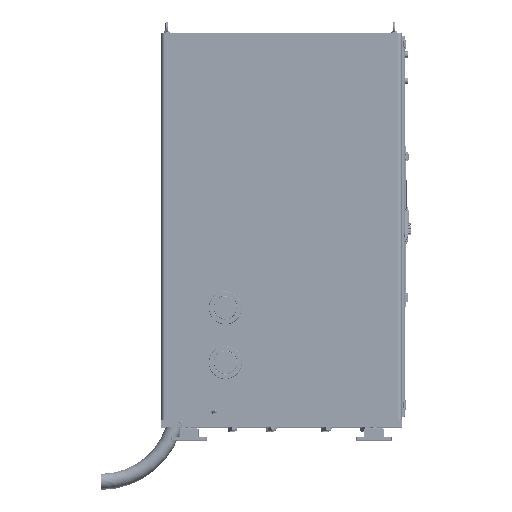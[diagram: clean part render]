
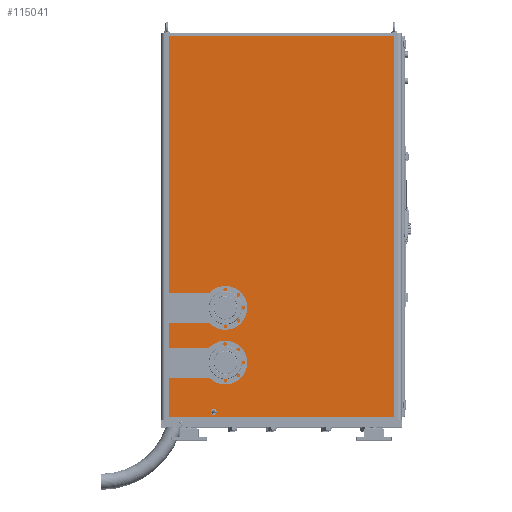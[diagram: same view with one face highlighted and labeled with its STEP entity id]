
A CAD part, top view. The second image highlights one B-rep face of the part: STEP entity #115041.
In plain terms, the highlighted planar face has unit normal (0, 0, 1).
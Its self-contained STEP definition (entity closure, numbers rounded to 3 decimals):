
#1533 = VECTOR ( 'NONE', #115704, 1000. ) ;
#4093 = DIRECTION ( 'NONE',  ( 0., 0., -1. ) ) ;
#4802 = DIRECTION ( 'NONE',  ( -1., 0., 0. ) ) ;
#5464 = VERTEX_POINT ( 'NONE', #12586 ) ;
#5616 = VECTOR ( 'NONE', #5823, 1000. ) ;
#5823 = DIRECTION ( 'NONE',  ( 0., 1., 0. ) ) ;
#6528 = CARTESIAN_POINT ( 'NONE',  ( -559.183, -587.365, 1544.379 ) ) ;
#6925 = VECTOR ( 'NONE', #43509, 1000. ) ;
#7446 = CARTESIAN_POINT ( 'NONE',  ( -354.183, -902.365, 1544.379 ) ) ;
#8241 = EDGE_CURVE ( 'NONE', #24575, #127979, #93222, .T. ) ;
#8360 = DIRECTION ( 'NONE',  ( 1., 0., 0. ) ) ;
#8605 = LINE ( 'NONE', #52111, #6925 ) ;
#8803 = CARTESIAN_POINT ( 'NONE',  ( -559.183, -924.365, 1544.379 ) ) ;
#9072 = CARTESIAN_POINT ( 'NONE',  ( -339.183, -902.365, 1544.379 ) ) ;
#9268 = VERTEX_POINT ( 'NONE', #14178 ) ;
#11684 = LINE ( 'NONE', #77283, #60199 ) ;
#12586 = CARTESIAN_POINT ( 'NONE',  ( -284.183, -737.365, 1544.379 ) ) ;
#12788 = CARTESIAN_POINT ( 'NONE',  ( -284.183, -467.365, 1544.379 ) ) ;
#14178 = CARTESIAN_POINT ( 'NONE',  ( -559.183, -587.365, 1544.379 ) ) ;
#14251 = LINE ( 'NONE', #101250, #55896 ) ;
#14430 = ORIENTED_EDGE ( 'NONE', *, *, #72823, .T. ) ;
#14781 = FACE_BOUND ( 'NONE', #64540, .T. ) ;
#15331 = VERTEX_POINT ( 'NONE', #91961 ) ;
#15783 = VECTOR ( 'NONE', #58605, 1000. ) ;
#17243 = ORIENTED_EDGE ( 'NONE', *, *, #140504, .T. ) ;
#18831 = ORIENTED_EDGE ( 'NONE', *, *, #137940, .F. ) ;
#18879 = AXIS2_PLACEMENT_3D ( 'NONE', #104784, #138277, #82686 ) ;
#21155 = EDGE_CURVE ( 'NONE', #64624, #9268, #115776, .T. ) ;
#23611 = EDGE_CURVE ( 'NONE', #69048, #83771, #112239, .T. ) ;
#23902 = CIRCLE ( 'NONE', #51315, 75. ) ;
#24575 = VERTEX_POINT ( 'NONE', #109466 ) ;
#26029 = CARTESIAN_POINT ( 'NONE',  ( -559.183, -317.365, 1544.379 ) ) ;
#26435 = CARTESIAN_POINT ( 'NONE',  ( -559.183, -926.365, 1544.379 ) ) ;
#27429 = VERTEX_POINT ( 'NONE', #47551 ) ;
#30194 = CARTESIAN_POINT ( 'NONE',  ( -559.183, -924.365, 1544.379 ) ) ;
#32853 = ORIENTED_EDGE ( 'NONE', *, *, #119725, .F. ) ;
#32918 = ORIENTED_EDGE ( 'NONE', *, *, #21155, .T. ) ;
#36250 = ORIENTED_EDGE ( 'NONE', *, *, #62387, .F. ) ;
#36330 = CARTESIAN_POINT ( 'NONE',  ( -284.183, -392.365, 1544.379 ) ) ;
#36634 = VECTOR ( 'NONE', #82279, 1000. ) ;
#36799 = DIRECTION ( 'NONE',  ( 0., 0., 1. ) ) ;
#37999 = VECTOR ( 'NONE', #57323, 1000. ) ;
#39450 = CIRCLE ( 'NONE', #18879, 75. ) ;
#39962 = ORIENTED_EDGE ( 'NONE', *, *, #23611, .F. ) ;
#40492 = VERTEX_POINT ( 'NONE', #26435 ) ;
#40841 = CARTESIAN_POINT ( 'NONE',  ( -559.183, -924.365, 1544.379 ) ) ;
#41267 = VECTOR ( 'NONE', #135688, 1000. ) ;
#43509 = DIRECTION ( 'NONE',  ( 1., 0., 0. ) ) ;
#43630 = AXIS2_PLACEMENT_3D ( 'NONE', #125309, #4093, #4802 ) ;
#44209 = EDGE_CURVE ( 'NONE', #27429, #9268, #82126, .T. ) ;
#46078 = CARTESIAN_POINT ( 'NONE',  ( -339.183, -902.365, 1544.379 ) ) ;
#47551 = CARTESIAN_POINT ( 'NONE',  ( -284.183, -587.365, 1544.379 ) ) ;
#47712 = DIRECTION ( 'NONE',  ( 0., 0., 1. ) ) ;
#51042 = EDGE_LOOP ( 'NONE', ( #71817, #36250, #32853, #134241, #14430, #73940, #140480, #17243, #39962, #138118, #18831, #32918 ) ) ;
#51206 = AXIS2_PLACEMENT_3D ( 'NONE', #9072, #128162, #8360 ) ;
#51315 = AXIS2_PLACEMENT_3D ( 'NONE', #36330, #47712, #79834 ) ;
#52111 = CARTESIAN_POINT ( 'NONE',  ( -284.183, -467.365, 1544.379 ) ) ;
#52238 = AXIS2_PLACEMENT_3D ( 'NONE', #46078, #36799, #112403 ) ;
#55301 = CARTESIAN_POINT ( 'NONE',  ( 544.817, 937.635, 1544.379 ) ) ;
#55896 = VECTOR ( 'NONE', #91949, 1000. ) ;
#55918 = CARTESIAN_POINT ( 'NONE',  ( -559.183, -317.365, 1544.379 ) ) ;
#57323 = DIRECTION ( 'NONE',  ( -1., 0., 0. ) ) ;
#58016 = CIRCLE ( 'NONE', #51206, 15. ) ;
#58605 = DIRECTION ( 'NONE',  ( -1., 0., 0. ) ) ;
#58777 = ORIENTED_EDGE ( 'NONE', *, *, #8241, .F. ) ;
#60199 = VECTOR ( 'NONE', #75209, 1000. ) ;
#62387 = EDGE_CURVE ( 'NONE', #5464, #27429, #39450, .T. ) ;
#64540 = EDGE_LOOP ( 'NONE', ( #58777, #82048 ) ) ;
#64624 = VERTEX_POINT ( 'NONE', #105552 ) ;
#66478 = VERTEX_POINT ( 'NONE', #94305 ) ;
#66680 = LINE ( 'NONE', #55301, #5616 ) ;
#68881 = VECTOR ( 'NONE', #115070, 1000. ) ;
#69048 = VERTEX_POINT ( 'NONE', #70744 ) ;
#70744 = CARTESIAN_POINT ( 'NONE',  ( -284.183, -317.365, 1544.379 ) ) ;
#71817 = ORIENTED_EDGE ( 'NONE', *, *, #44209, .F. ) ;
#71822 = PLANE ( 'NONE',  #43630 ) ;
#72183 = CARTESIAN_POINT ( 'NONE',  ( 542.817, -926.365, 1544.379 ) ) ;
#72823 = EDGE_CURVE ( 'NONE', #40492, #74876, #137094, .T. ) ;
#73940 = ORIENTED_EDGE ( 'NONE', *, *, #129223, .T. ) ;
#74876 = VERTEX_POINT ( 'NONE', #100090 ) ;
#75209 = DIRECTION ( 'NONE',  ( 1., 0., 0. ) ) ;
#77283 = CARTESIAN_POINT ( 'NONE',  ( -284.183, -737.365, 1544.379 ) ) ;
#79834 = DIRECTION ( 'NONE',  ( 1., 0., 0. ) ) ;
#80174 = EDGE_CURVE ( 'NONE', #66478, #40492, #117903, .T. ) ;
#82048 = ORIENTED_EDGE ( 'NONE', *, *, #109764, .F. ) ;
#82126 = LINE ( 'NONE', #6528, #15783 ) ;
#82279 = DIRECTION ( 'NONE',  ( 0., -1., 0. ) ) ;
#82686 = DIRECTION ( 'NONE',  ( 1., 0., 0. ) ) ;
#83771 = VERTEX_POINT ( 'NONE', #26029 ) ;
#85520 = VERTEX_POINT ( 'NONE', #118672 ) ;
#91949 = DIRECTION ( 'NONE',  ( -1., 0., 0. ) ) ;
#91961 = CARTESIAN_POINT ( 'NONE',  ( -559.183, 939.635, 1544.379 ) ) ;
#93184 = FACE_OUTER_BOUND ( 'NONE', #51042, .T. ) ;
#93222 = CIRCLE ( 'NONE', #52238, 15. ) ;
#94305 = CARTESIAN_POINT ( 'NONE',  ( -559.183, -737.365, 1544.379 ) ) ;
#95878 = EDGE_CURVE ( 'NONE', #139429, #69048, #23902, .T. ) ;
#100090 = CARTESIAN_POINT ( 'NONE',  ( 544.817, -926.365, 1544.379 ) ) ;
#101250 = CARTESIAN_POINT ( 'NONE',  ( -557.183, 939.635, 1544.379 ) ) ;
#103587 = LINE ( 'NONE', #40841, #41267 ) ;
#104784 = CARTESIAN_POINT ( 'NONE',  ( -284.183, -662.365, 1544.379 ) ) ;
#105552 = CARTESIAN_POINT ( 'NONE',  ( -559.183, -467.365, 1544.379 ) ) ;
#109466 = CARTESIAN_POINT ( 'NONE',  ( -324.183, -902.365, 1544.379 ) ) ;
#109764 = EDGE_CURVE ( 'NONE', #127979, #24575, #58016, .T. ) ;
#112239 = LINE ( 'NONE', #55918, #37999 ) ;
#112403 = DIRECTION ( 'NONE',  ( 1., 0., 0. ) ) ;
#115041 = ADVANCED_FACE ( 'NONE', ( #14781, #93184 ), #71822, .F. ) ;
#115070 = DIRECTION ( 'NONE',  ( 0., -1., 0. ) ) ;
#115704 = DIRECTION ( 'NONE',  ( 1., 0., 0. ) ) ;
#115776 = LINE ( 'NONE', #30194, #68881 ) ;
#117903 = LINE ( 'NONE', #8803, #36634 ) ;
#118672 = CARTESIAN_POINT ( 'NONE',  ( 544.817, 939.635, 1544.379 ) ) ;
#119725 = EDGE_CURVE ( 'NONE', #66478, #5464, #11684, .T. ) ;
#125309 = CARTESIAN_POINT ( 'NONE',  ( 542.817, -924.365, 1544.379 ) ) ;
#127979 = VERTEX_POINT ( 'NONE', #7446 ) ;
#128162 = DIRECTION ( 'NONE',  ( 0., 0., 1. ) ) ;
#129223 = EDGE_CURVE ( 'NONE', #74876, #85520, #66680, .T. ) ;
#129679 = EDGE_CURVE ( 'NONE', #85520, #15331, #14251, .T. ) ;
#134241 = ORIENTED_EDGE ( 'NONE', *, *, #80174, .T. ) ;
#135688 = DIRECTION ( 'NONE',  ( 0., -1., 0. ) ) ;
#137094 = LINE ( 'NONE', #72183, #1533 ) ;
#137940 = EDGE_CURVE ( 'NONE', #64624, #139429, #8605, .T. ) ;
#138118 = ORIENTED_EDGE ( 'NONE', *, *, #95878, .F. ) ;
#138277 = DIRECTION ( 'NONE',  ( 0., 0., 1. ) ) ;
#139429 = VERTEX_POINT ( 'NONE', #12788 ) ;
#140480 = ORIENTED_EDGE ( 'NONE', *, *, #129679, .T. ) ;
#140504 = EDGE_CURVE ( 'NONE', #15331, #83771, #103587, .T. ) ;
